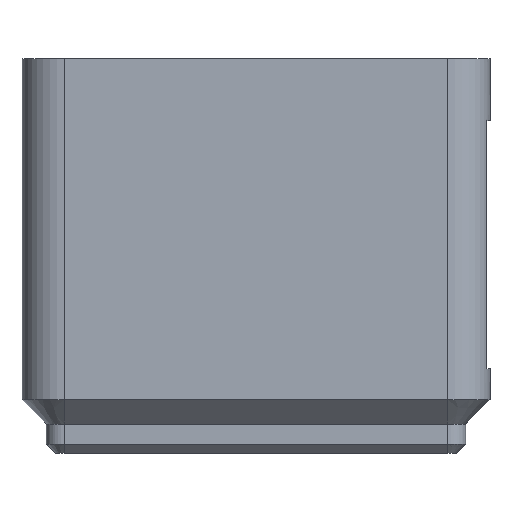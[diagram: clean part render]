
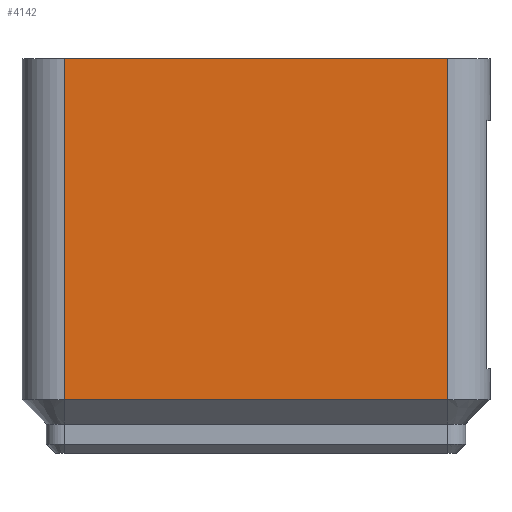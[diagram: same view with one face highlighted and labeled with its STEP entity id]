
A CAD part, left-side view. The second image highlights one B-rep face of the part: STEP entity #4142.
In plain terms, the highlighted planar face has unit normal (-1, 0, 0).
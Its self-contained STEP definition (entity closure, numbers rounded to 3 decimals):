
#2067 = CYLINDRICAL_SURFACE('',#2068,3.75);
#2068 = AXIS2_PLACEMENT_3D('',#2069,#2070,#2071);
#2069 = CARTESIAN_POINT('',(-17.,-17.,34.4));
#2070 = DIRECTION('',(0.,0.,-1.));
#2071 = DIRECTION('',(-1.,0.,0.));
#2876 = PLANE('',#2877);
#2877 = AXIS2_PLACEMENT_3D('',#2878,#2879,#2880);
#2878 = CARTESIAN_POINT('',(0.,0.,35.)
  );
#2879 = DIRECTION('',(0.,0.,1.));
#2880 = DIRECTION('',(1.,0.,-0.));
#3019 = VERTEX_POINT('',#3020);
#3020 = CARTESIAN_POINT('',(-20.75,-17.,35.));
#3046 = EDGE_CURVE('',#3047,#3019,#3049,.T.);
#3047 = VERTEX_POINT('',#3048);
#3048 = CARTESIAN_POINT('',(-20.75,-17.,4.75));
#3049 = SURFACE_CURVE('',#3050,(#3054,#3061),.PCURVE_S1.);
#3050 = LINE('',#3051,#3052);
#3051 = CARTESIAN_POINT('',(-20.75,-17.,4.75));
#3052 = VECTOR('',#3053,1.);
#3053 = DIRECTION('',(0.,0.,1.));
#3054 = PCURVE('',#2067,#3055);
#3055 = DEFINITIONAL_REPRESENTATION('',(#3056),#3060);
#3056 = LINE('',#3057,#3058);
#3057 = CARTESIAN_POINT('',(6.283,29.65));
#3058 = VECTOR('',#3059,1.);
#3059 = DIRECTION('',(0.,-1.));
#3060 = ( GEOMETRIC_REPRESENTATION_CONTEXT(2) 
PARAMETRIC_REPRESENTATION_CONTEXT() REPRESENTATION_CONTEXT('2D SPACE',''
  ) );
#3061 = PCURVE('',#3062,#3067);
#3062 = PLANE('',#3063);
#3063 = AXIS2_PLACEMENT_3D('',#3064,#3065,#3066);
#3064 = CARTESIAN_POINT('',(-20.75,-17.,34.4));
#3065 = DIRECTION('',(-1.,0.,0.));
#3066 = DIRECTION('',(0.,1.,0.));
#3067 = DEFINITIONAL_REPRESENTATION('',(#3068),#3072);
#3068 = LINE('',#3069,#3070);
#3069 = CARTESIAN_POINT('',(0.,29.65));
#3070 = VECTOR('',#3071,1.);
#3071 = DIRECTION('',(0.,-1.));
#3072 = ( GEOMETRIC_REPRESENTATION_CONTEXT(2) 
PARAMETRIC_REPRESENTATION_CONTEXT() REPRESENTATION_CONTEXT('2D SPACE',''
  ) );
#3954 = EDGE_CURVE('',#3019,#3955,#3957,.T.);
#3955 = VERTEX_POINT('',#3956);
#3956 = CARTESIAN_POINT('',(-20.75,17.,35.));
#3957 = SURFACE_CURVE('',#3958,(#3962,#3969),.PCURVE_S1.);
#3958 = LINE('',#3959,#3960);
#3959 = CARTESIAN_POINT('',(-20.75,0.,35.));
#3960 = VECTOR('',#3961,1.);
#3961 = DIRECTION('',(0.,1.,0.));
#3962 = PCURVE('',#2876,#3963);
#3963 = DEFINITIONAL_REPRESENTATION('',(#3964),#3968);
#3964 = LINE('',#3965,#3966);
#3965 = CARTESIAN_POINT('',(-20.75,0.));
#3966 = VECTOR('',#3967,1.);
#3967 = DIRECTION('',(0.,1.));
#3968 = ( GEOMETRIC_REPRESENTATION_CONTEXT(2) 
PARAMETRIC_REPRESENTATION_CONTEXT() REPRESENTATION_CONTEXT('2D SPACE',''
  ) );
#3969 = PCURVE('',#3062,#3970);
#3970 = DEFINITIONAL_REPRESENTATION('',(#3971),#3975);
#3971 = LINE('',#3972,#3973);
#3972 = CARTESIAN_POINT('',(17.,-0.6));
#3973 = VECTOR('',#3974,1.);
#3974 = DIRECTION('',(1.,0.));
#3975 = ( GEOMETRIC_REPRESENTATION_CONTEXT(2) 
PARAMETRIC_REPRESENTATION_CONTEXT() REPRESENTATION_CONTEXT('2D SPACE',''
  ) );
#4056 = CYLINDRICAL_SURFACE('',#4057,3.75);
#4057 = AXIS2_PLACEMENT_3D('',#4058,#4059,#4060);
#4058 = CARTESIAN_POINT('',(-17.,17.,34.4));
#4059 = DIRECTION('',(0.,0.,-1.));
#4060 = DIRECTION('',(-1.,0.,0.));
#4132 = PLANE('',#4133);
#4133 = AXIS2_PLACEMENT_3D('',#4134,#4135,#4136);
#4134 = CARTESIAN_POINT('',(-20.75,0.,4.75));
#4135 = DIRECTION('',(-0.707,0.,-0.707));
#4136 = DIRECTION('',(0.,-1.,-0.));
#4142 = ADVANCED_FACE('',(#4143),#3062,.T.);
#4143 = FACE_BOUND('',#4144,.T.);
#4144 = EDGE_LOOP('',(#4145,#4146,#4169,#4190));
#4145 = ORIENTED_EDGE('',*,*,#3954,.T.);
#4146 = ORIENTED_EDGE('',*,*,#4147,.T.);
#4147 = EDGE_CURVE('',#3955,#4148,#4150,.T.);
#4148 = VERTEX_POINT('',#4149);
#4149 = CARTESIAN_POINT('',(-20.75,17.,4.75));
#4150 = SURFACE_CURVE('',#4151,(#4155,#4162),.PCURVE_S1.);
#4151 = LINE('',#4152,#4153);
#4152 = CARTESIAN_POINT('',(-20.75,17.,35.));
#4153 = VECTOR('',#4154,1.);
#4154 = DIRECTION('',(0.,0.,-1.));
#4155 = PCURVE('',#3062,#4156);
#4156 = DEFINITIONAL_REPRESENTATION('',(#4157),#4161);
#4157 = LINE('',#4158,#4159);
#4158 = CARTESIAN_POINT('',(34.,-0.6));
#4159 = VECTOR('',#4160,1.);
#4160 = DIRECTION('',(0.,1.));
#4161 = ( GEOMETRIC_REPRESENTATION_CONTEXT(2) 
PARAMETRIC_REPRESENTATION_CONTEXT() REPRESENTATION_CONTEXT('2D SPACE',''
  ) );
#4162 = PCURVE('',#4056,#4163);
#4163 = DEFINITIONAL_REPRESENTATION('',(#4164),#4168);
#4164 = LINE('',#4165,#4166);
#4165 = CARTESIAN_POINT('',(0.,-0.6));
#4166 = VECTOR('',#4167,1.);
#4167 = DIRECTION('',(-0.,1.));
#4168 = ( GEOMETRIC_REPRESENTATION_CONTEXT(2) 
PARAMETRIC_REPRESENTATION_CONTEXT() REPRESENTATION_CONTEXT('2D SPACE',''
  ) );
#4169 = ORIENTED_EDGE('',*,*,#4170,.F.);
#4170 = EDGE_CURVE('',#3047,#4148,#4171,.T.);
#4171 = SURFACE_CURVE('',#4172,(#4176,#4183),.PCURVE_S1.);
#4172 = LINE('',#4173,#4174);
#4173 = CARTESIAN_POINT('',(-20.75,0.,4.75));
#4174 = VECTOR('',#4175,1.);
#4175 = DIRECTION('',(0.,1.,0.));
#4176 = PCURVE('',#3062,#4177);
#4177 = DEFINITIONAL_REPRESENTATION('',(#4178),#4182);
#4178 = LINE('',#4179,#4180);
#4179 = CARTESIAN_POINT('',(17.,29.65));
#4180 = VECTOR('',#4181,1.);
#4181 = DIRECTION('',(1.,0.));
#4182 = ( GEOMETRIC_REPRESENTATION_CONTEXT(2) 
PARAMETRIC_REPRESENTATION_CONTEXT() REPRESENTATION_CONTEXT('2D SPACE',''
  ) );
#4183 = PCURVE('',#4132,#4184);
#4184 = DEFINITIONAL_REPRESENTATION('',(#4185),#4189);
#4185 = LINE('',#4186,#4187);
#4186 = CARTESIAN_POINT('',(0.,0.));
#4187 = VECTOR('',#4188,1.);
#4188 = DIRECTION('',(-1.,0.));
#4189 = ( GEOMETRIC_REPRESENTATION_CONTEXT(2) 
PARAMETRIC_REPRESENTATION_CONTEXT() REPRESENTATION_CONTEXT('2D SPACE',''
  ) );
#4190 = ORIENTED_EDGE('',*,*,#3046,.T.);
